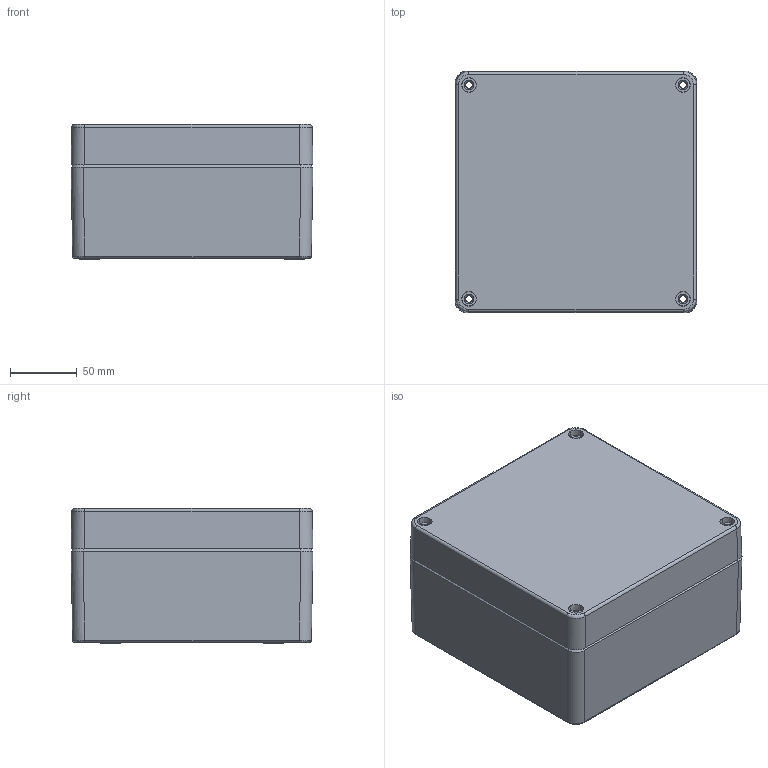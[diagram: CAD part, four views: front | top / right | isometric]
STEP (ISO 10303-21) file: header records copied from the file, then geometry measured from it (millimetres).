
FILE_DESCRIPTION (( 'STEP AP203' ), '1' );
FILE_NAME ('ALU ASSY 180180100.STEP', '2024-08-27T09:21:10', ( '' ), ( '' ), 'SwSTEP 2.0', 'SolidWorks 2018', '' );
FILE_SCHEMA (( 'CONFIG_CONTROL_DESIGN' ));
Length unit declared in the file: millimetre
Products named in the file (3): ALU BASE 180180100; ALU ASSY 180180100; ALU LID 180180100
Assembly tree (2 placements, depth 2):
  ALU ASSY 180180100
    ALU BASE 180180100
    ALU LID 180180100
Bounding box: 181 x 181 x 101 mm (x, y, z)
Volume: 733979.3 mm3; surface area: 285339.2 mm2
Topology: 2 solids, 2 shells, 637 faces, 1545 edges, 967 vertices
Faces by surface type: plane 224, cylinder 194, cone 118, bspline 101
Entity records: 24722 total; most frequent: CARTESIAN_POINT 10150, ORIENTED_EDGE 3050, DIRECTION 2816, EDGE_CURVE 1525, AXIS2_PLACEMENT_3D 1017, VERTEX_POINT 967, VECTOR 782, LINE 782
